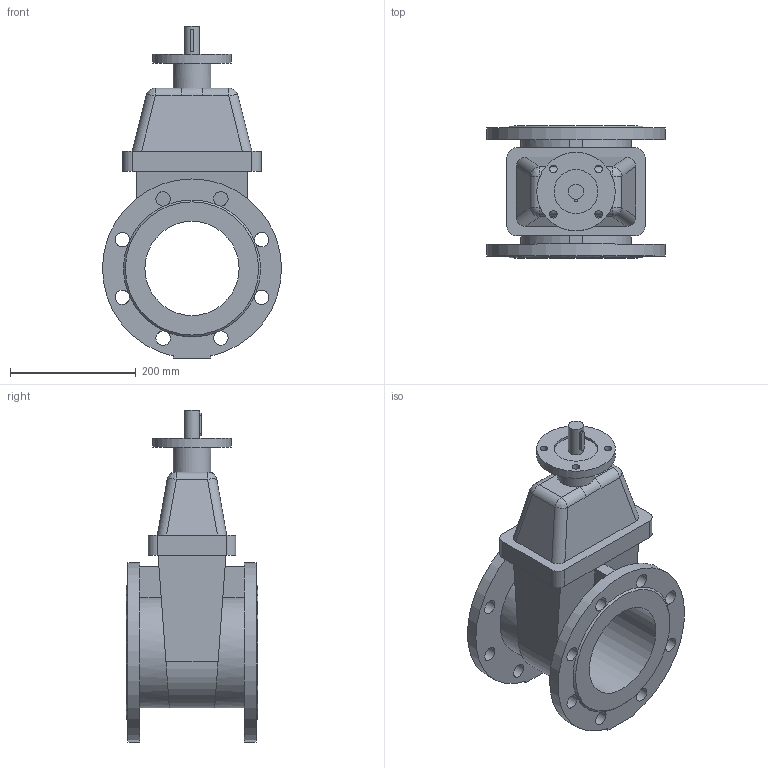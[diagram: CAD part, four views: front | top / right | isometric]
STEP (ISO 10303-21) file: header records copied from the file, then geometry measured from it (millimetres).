
FILE_DESCRIPTION(('STEP AP203'), '1');
FILE_NAME('Çàäâèæêà 47GVA DN150 PN10_PN16 áåç èñïîëíèò. ìåõ.', '', ('UNSPECIFIED'), ('UNSPECIFIED'), 'ASCON STEP Converter 1.6', 'ASCON Math Kernel', '');
FILE_SCHEMA(('CONFIG_CONTROL_DESIGN'));
Length unit declared in the file: millimetre
Bounding box: 284.94 x 210 x 528.5 mm (x, y, z)
Volume: 7291891.3 mm3; surface area: 587430.9 mm2
Topology: 1 solids, 1 shells, 119 faces, 341 edges, 217 vertices
Faces by surface type: plane 56, cylinder 54, bspline 7, cone 2
Full cylindrical faces by diameter (mm): 12 x4, 23 x16, 24 x1, 60 x1, 70 x1, 125 x1, 150 x1
Entity records: 6541 total; most frequent: CARTESIAN_POINT 2474, DIRECTION 636, ORIENTED_EDGE 620, EDGE_CURVE 310, AXIS2_PLACEMENT_3D 250, VERTEX_POINT 217, EDGE_LOOP 185, FACE_BOUND 150
